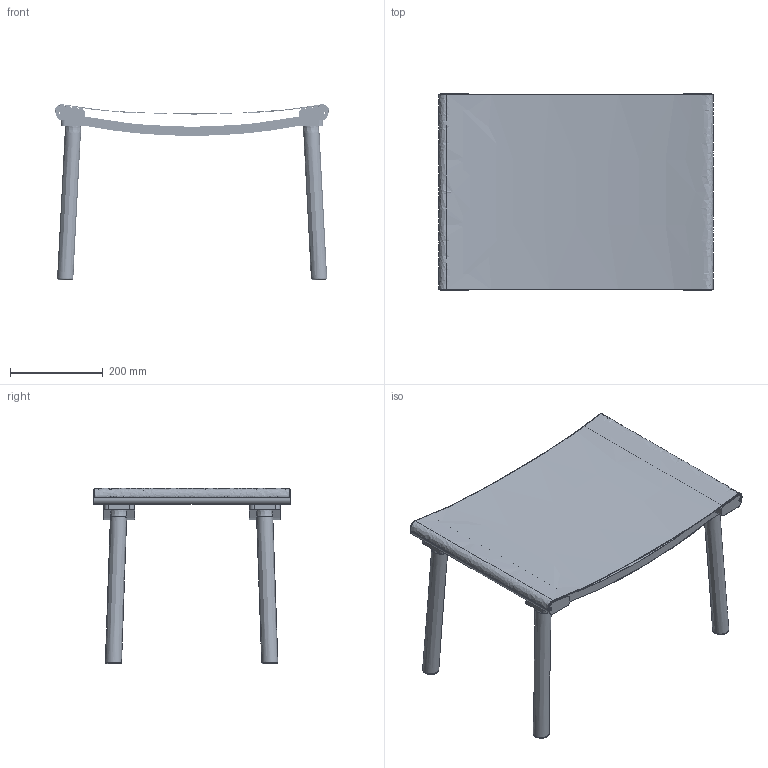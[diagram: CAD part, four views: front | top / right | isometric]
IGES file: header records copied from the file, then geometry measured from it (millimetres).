
Global section: file name: C:\Users\Timo Mikkonen\Desktop\Nikari 3d. tiedostot rfa\LOUNGE CHAIRS & SOFAS\iges\December ottoman.igs; native system: Rhinoceros ( Sep  8 2025 ); preprocessor: Trout Lake IGES 012 Sep  8 2025; date: 250916.061630; units: millimetre
Bounding box: 592.34 x 424 x 378.7 mm (x, y, z)
Surface area: 1179089.4 mm2 (no closed solid volume)
Topology: 0 solids, 0 shells, 79 faces, 1926 edges, 1908 vertices
Faces by surface type: bspline 79
